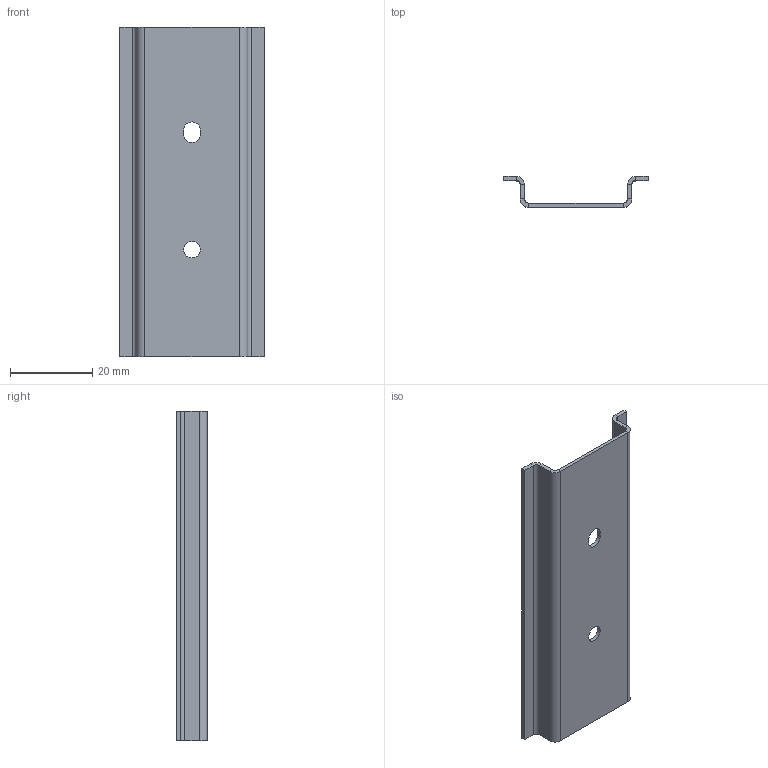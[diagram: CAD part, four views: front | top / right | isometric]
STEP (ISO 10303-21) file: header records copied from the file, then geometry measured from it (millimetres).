
FILE_DESCRIPTION (( 'STEP AP214' ), '1' );
FILE_NAME ('ACC-DIN-RAIL-80mm.STEP', '2016-01-04T19:41:14', ( 'Daryl' ), ( 'Microsoft' ), 'SwSTEP 2.0', 'SolidWorks 2014', '' );
FILE_SCHEMA (( 'AUTOMOTIVE_DESIGN' ));
Length unit declared in the file: millimetre
Products named in the file (1): ACC-DIN-RAIL-80mm
Bounding box: 35 x 7.5 x 80 mm (x, y, z)
Volume: 3604.8 mm3; surface area: 7487.7 mm2
Topology: 1 solids, 1 shells, 43 faces, 91 edges, 50 vertices
Faces by surface type: plane 32, cylinder 11
Full cylindrical faces by diameter (mm): 4 x1
Entity records: 1148 total; most frequent: DIRECTION 200, CARTESIAN_POINT 184, ORIENTED_EDGE 180, EDGE_CURVE 90, VECTOR 68, LINE 68, AXIS2_PLACEMENT_3D 66, VERTEX_POINT 50
